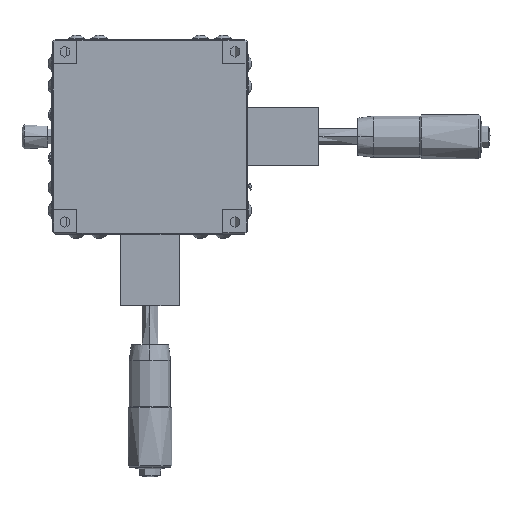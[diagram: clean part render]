
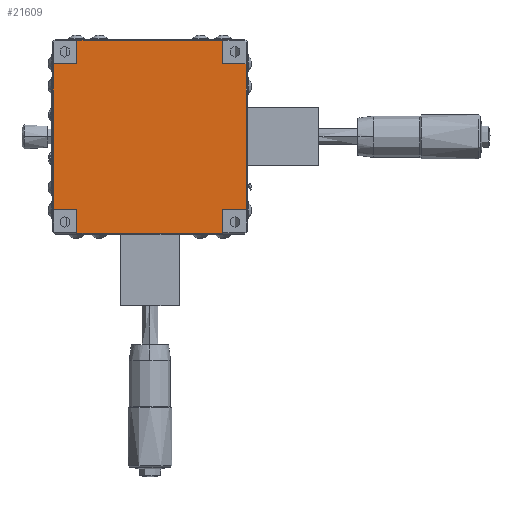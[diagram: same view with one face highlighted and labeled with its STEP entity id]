
A CAD part, front view. The second image highlights one B-rep face of the part: STEP entity #21609.
In plain terms, the highlighted planar face has unit normal (0, -1, 0).
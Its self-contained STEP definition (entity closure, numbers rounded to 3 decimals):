
#127 = CARTESIAN_POINT ( 'NONE',  ( -38.172, 1.495, 79.318 ) ) ;
#488 = VERTEX_POINT ( 'NONE', #20550 ) ;
#921 = LINE ( 'NONE', #24711, #8045 ) ;
#1256 = EDGE_CURVE ( 'NONE', #24451, #25686, #4872, .T. ) ;
#1981 = EDGE_LOOP ( 'NONE', ( #5324, #16727, #25219, #27861, #23678, #3624, #2452, #6367, #6021, #9934, #20484, #16071 ) ) ;
#2171 = LINE ( 'NONE', #11959, #22003 ) ;
#2353 = EDGE_CURVE ( 'NONE', #12251, #13887, #921, .T. ) ;
#2452 = ORIENTED_EDGE ( 'NONE', *, *, #8480, .T. ) ;
#2588 = EDGE_CURVE ( 'NONE', #488, #17992, #18590, .T. ) ;
#3624 = ORIENTED_EDGE ( 'NONE', *, *, #2588, .T. ) ;
#4183 = LINE ( 'NONE', #24975, #27525 ) ;
#4269 = LINE ( 'NONE', #22406, #20566 ) ;
#4611 = VERTEX_POINT ( 'NONE', #127 ) ;
#4653 = DIRECTION ( 'NONE',  ( 0., -1., 0. ) ) ;
#4872 = LINE ( 'NONE', #29269, #15445 ) ;
#4909 = LINE ( 'NONE', #12015, #13707 ) ;
#5135 = DIRECTION ( 'NONE',  ( 1., 0., 0. ) ) ;
#5324 = ORIENTED_EDGE ( 'NONE', *, *, #2353, .T. ) ;
#5348 = VECTOR ( 'NONE', #25044, 1000. ) ;
#5382 = CARTESIAN_POINT ( 'NONE',  ( -38.172, 1.495, 89.018 ) ) ;
#5876 = VERTEX_POINT ( 'NONE', #23102 ) ;
#5962 = DIRECTION ( 'NONE',  ( -1., 0., 0. ) ) ;
#6021 = ORIENTED_EDGE ( 'NONE', *, *, #1256, .T. ) ;
#6367 = ORIENTED_EDGE ( 'NONE', *, *, #23665, .T. ) ;
#6896 = VECTOR ( 'NONE', #25660, 1000. ) ;
#7826 = DIRECTION ( 'NONE',  ( 0., 0., -1. ) ) ;
#8045 = VECTOR ( 'NONE', #26172, 1000. ) ;
#8480 = EDGE_CURVE ( 'NONE', #17992, #10241, #4183, .T. ) ;
#8709 = DIRECTION ( 'NONE',  ( 0., 0., -1. ) ) ;
#9017 = CARTESIAN_POINT ( 'NONE',  ( -38.172, 1.495, 79.318 ) ) ;
#9287 = EDGE_CURVE ( 'NONE', #25686, #4611, #24852, .T. ) ;
#9349 = EDGE_CURVE ( 'NONE', #18925, #12251, #2171, .T. ) ;
#9934 = ORIENTED_EDGE ( 'NONE', *, *, #9287, .T. ) ;
#10241 = VERTEX_POINT ( 'NONE', #10783 ) ;
#10783 = CARTESIAN_POINT ( 'NONE',  ( -38.172, 1.495, 19.318 ) ) ;
#11057 = VECTOR ( 'NONE', #7826, 1000. ) ;
#11316 = LINE ( 'NONE', #15819, #5348 ) ;
#11355 = FACE_OUTER_BOUND ( 'NONE', #1981, .T. ) ;
#11489 = DIRECTION ( 'NONE',  ( -1., 0., 0. ) ) ;
#11959 = CARTESIAN_POINT ( 'NONE',  ( -38.172, 1.495, 89.018 ) ) ;
#12015 = CARTESIAN_POINT ( 'NONE',  ( -38.172, 1.495, 19.318 ) ) ;
#12082 = VECTOR ( 'NONE', #11489, 1000. ) ;
#12130 = CARTESIAN_POINT ( 'NONE',  ( -107.872, 1.495, 0.81 ) ) ;
#12251 = VERTEX_POINT ( 'NONE', #13709 ) ;
#12581 = VECTOR ( 'NONE', #15210, 1000. ) ;
#13336 = AXIS2_PLACEMENT_3D ( 'NONE', #20478, #4653, #8709 ) ;
#13506 = LINE ( 'NONE', #12130, #11057 ) ;
#13707 = VECTOR ( 'NONE', #5135, 1000. ) ;
#13709 = CARTESIAN_POINT ( 'NONE',  ( -98.172, 1.495, 89.018 ) ) ;
#13887 = VERTEX_POINT ( 'NONE', #27915 ) ;
#14298 = CARTESIAN_POINT ( 'NONE',  ( -28.472, 1.495, 19.318 ) ) ;
#14843 = EDGE_CURVE ( 'NONE', #13887, #29163, #23232, .T. ) ;
#14921 = CARTESIAN_POINT ( 'NONE',  ( -38.172, 1.495, 9.618 ) ) ;
#15210 = DIRECTION ( 'NONE',  ( 1., 0., 0. ) ) ;
#15445 = VECTOR ( 'NONE', #15680, 1000. ) ;
#15680 = DIRECTION ( 'NONE',  ( 0., 0., 1. ) ) ;
#15819 = CARTESIAN_POINT ( 'NONE',  ( -38.172, 1.495, 0.81 ) ) ;
#15951 = EDGE_CURVE ( 'NONE', #19245, #488, #26332, .T. ) ;
#16071 = ORIENTED_EDGE ( 'NONE', *, *, #9349, .T. ) ;
#16295 = EDGE_CURVE ( 'NONE', #29163, #5876, #13506, .T. ) ;
#16727 = ORIENTED_EDGE ( 'NONE', *, *, #14843, .T. ) ;
#17928 = CARTESIAN_POINT ( 'NONE',  ( -38.172, 1.495, 9.618 ) ) ;
#17992 = VERTEX_POINT ( 'NONE', #17928 ) ;
#18181 = CARTESIAN_POINT ( 'NONE',  ( -38.172, 1.495, 79.318 ) ) ;
#18507 = DIRECTION ( 'NONE',  ( 0., 0., 1. ) ) ;
#18590 = LINE ( 'NONE', #14921, #12581 ) ;
#18925 = VERTEX_POINT ( 'NONE', #5382 ) ;
#19245 = VERTEX_POINT ( 'NONE', #20812 ) ;
#19640 = VECTOR ( 'NONE', #5962, 1000. ) ;
#20478 = CARTESIAN_POINT ( 'NONE',  ( -38.172, 1.495, 0.81 ) ) ;
#20484 = ORIENTED_EDGE ( 'NONE', *, *, #23807, .T. ) ;
#20550 = CARTESIAN_POINT ( 'NONE',  ( -98.172, 1.495, 9.618 ) ) ;
#20566 = VECTOR ( 'NONE', #24360, 1000. ) ;
#20812 = CARTESIAN_POINT ( 'NONE',  ( -98.172, 1.495, 19.318 ) ) ;
#20889 = DIRECTION ( 'NONE',  ( -1., 0., 0. ) ) ;
#21609 = ADVANCED_FACE ( 'NONE', ( #11355 ), #27007, .T. ) ;
#22003 = VECTOR ( 'NONE', #20889, 1000. ) ;
#22406 = CARTESIAN_POINT ( 'NONE',  ( -38.172, 1.495, 19.318 ) ) ;
#22567 = CARTESIAN_POINT ( 'NONE',  ( -28.472, 1.495, 79.318 ) ) ;
#23102 = CARTESIAN_POINT ( 'NONE',  ( -107.872, 1.495, 19.318 ) ) ;
#23232 = LINE ( 'NONE', #9017, #19640 ) ;
#23665 = EDGE_CURVE ( 'NONE', #10241, #24451, #4269, .T. ) ;
#23678 = ORIENTED_EDGE ( 'NONE', *, *, #15951, .T. ) ;
#23807 = EDGE_CURVE ( 'NONE', #4611, #18925, #11316, .T. ) ;
#24360 = DIRECTION ( 'NONE',  ( 1., 0., 0. ) ) ;
#24451 = VERTEX_POINT ( 'NONE', #14298 ) ;
#24711 = CARTESIAN_POINT ( 'NONE',  ( -98.172, 1.495, 0.81 ) ) ;
#24769 = EDGE_CURVE ( 'NONE', #5876, #19245, #4909, .T. ) ;
#24852 = LINE ( 'NONE', #18181, #12082 ) ;
#24975 = CARTESIAN_POINT ( 'NONE',  ( -38.172, 1.495, 0.81 ) ) ;
#25044 = DIRECTION ( 'NONE',  ( 0., 0., 1. ) ) ;
#25219 = ORIENTED_EDGE ( 'NONE', *, *, #16295, .T. ) ;
#25660 = DIRECTION ( 'NONE',  ( 0., 0., -1. ) ) ;
#25686 = VERTEX_POINT ( 'NONE', #22567 ) ;
#26172 = DIRECTION ( 'NONE',  ( 0., 0., -1. ) ) ;
#26239 = CARTESIAN_POINT ( 'NONE',  ( -98.172, 1.495, 0.81 ) ) ;
#26332 = LINE ( 'NONE', #26239, #6896 ) ;
#26955 = CARTESIAN_POINT ( 'NONE',  ( -107.872, 1.495, 79.318 ) ) ;
#27007 = PLANE ( 'NONE',  #13336 ) ;
#27525 = VECTOR ( 'NONE', #18507, 1000. ) ;
#27861 = ORIENTED_EDGE ( 'NONE', *, *, #24769, .T. ) ;
#27915 = CARTESIAN_POINT ( 'NONE',  ( -98.172, 1.495, 79.318 ) ) ;
#29163 = VERTEX_POINT ( 'NONE', #26955 ) ;
#29269 = CARTESIAN_POINT ( 'NONE',  ( -28.472, 1.495, 0.81 ) ) ;
